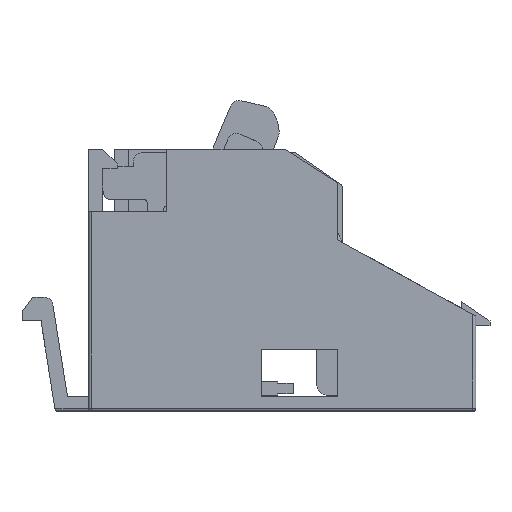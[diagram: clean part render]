
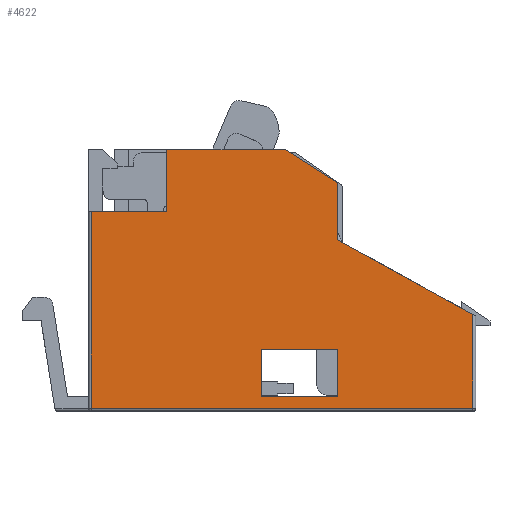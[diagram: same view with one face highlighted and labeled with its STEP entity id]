
A CAD part, top view. The second image highlights one B-rep face of the part: STEP entity #4622.
In plain terms, the highlighted planar face has unit normal (0, 0, 1).
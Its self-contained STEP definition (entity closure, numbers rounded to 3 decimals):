
#54 = CARTESIAN_POINT ( 'NONE',  ( 40.2, 10.166, 0. ) ) ;
#87 = DIRECTION ( 'NONE',  ( -1., 0., 0. ) ) ;
#165 = CARTESIAN_POINT ( 'NONE',  ( 20.5, 27.5, 0. ) ) ;
#226 = VERTEX_POINT ( 'NONE', #4753 ) ;
#325 = VERTEX_POINT ( 'NONE', #11358 ) ;
#541 = ORIENTED_EDGE ( 'NONE', *, *, #5759, .F. ) ;
#798 = VERTEX_POINT ( 'NONE', #1374 ) ;
#940 = CARTESIAN_POINT ( 'NONE',  ( 0.1, 0., 0. ) ) ;
#1082 = VERTEX_POINT ( 'NONE', #12701 ) ;
#1294 = CARTESIAN_POINT ( 'NONE',  ( 26., 0., 0. ) ) ;
#1374 = CARTESIAN_POINT ( 'NONE',  ( 26., 1.5, 0. ) ) ;
#1384 = CARTESIAN_POINT ( 'NONE',  ( 18., 1.5, 0. ) ) ;
#1458 = EDGE_CURVE ( 'NONE', #13090, #2715, #2737, .T. ) ;
#1497 = VERTEX_POINT ( 'NONE', #10554 ) ;
#1591 = LINE ( 'NONE', #12249, #6954 ) ;
#1723 = VECTOR ( 'NONE', #12868, 1000. ) ;
#1764 = VECTOR ( 'NONE', #5895, 1000. ) ;
#1819 = AXIS2_PLACEMENT_3D ( 'NONE', #3242, #6484, #87 ) ;
#1886 = CARTESIAN_POINT ( 'NONE',  ( 0., 1.5, 0. ) ) ;
#2014 = DIRECTION ( 'NONE',  ( 0., 1., 0. ) ) ;
#2024 = LINE ( 'NONE', #1886, #4557 ) ;
#2064 = DIRECTION ( 'NONE',  ( 1., 0., 0. ) ) ;
#2255 = EDGE_CURVE ( 'NONE', #226, #13090, #10112, .T. ) ;
#2348 = VECTOR ( 'NONE', #6442, 1000. ) ;
#2362 = CARTESIAN_POINT ( 'NONE',  ( 26., 18., 0. ) ) ;
#2558 = CARTESIAN_POINT ( 'NONE',  ( 8., 21., 0. ) ) ;
#2567 = EDGE_CURVE ( 'NONE', #6241, #1497, #7414, .T. ) ;
#2612 = CARTESIAN_POINT ( 'NONE',  ( 18., 6.5, 0. ) ) ;
#2715 = VERTEX_POINT ( 'NONE', #1384 ) ;
#2737 = LINE ( 'NONE', #10466, #13514 ) ;
#2950 = DIRECTION ( 'NONE',  ( 1., 0., 0. ) ) ;
#2964 = VECTOR ( 'NONE', #9867, 1000. ) ;
#3118 = EDGE_LOOP ( 'NONE', ( #12893, #8728, #3993, #7743 ) ) ;
#3198 = CARTESIAN_POINT ( 'NONE',  ( 26., 18., 0. ) ) ;
#3242 = CARTESIAN_POINT ( 'NONE',  ( 0., 0., 0. ) ) ;
#3458 = ORIENTED_EDGE ( 'NONE', *, *, #10048, .F. ) ;
#3567 = EDGE_CURVE ( 'NONE', #325, #12952, #6393, .T. ) ;
#3993 = ORIENTED_EDGE ( 'NONE', *, *, #1458, .F. ) ;
#4048 = ORIENTED_EDGE ( 'NONE', *, *, #6968, .F. ) ;
#4112 = VECTOR ( 'NONE', #2014, 1000. ) ;
#4557 = VECTOR ( 'NONE', #2950, 1000. ) ;
#4622 = ADVANCED_FACE ( 'NONE', ( #11075, #7883 ), #5411, .F. ) ;
#4631 = ORIENTED_EDGE ( 'NONE', *, *, #9653, .F. ) ;
#4713 = VERTEX_POINT ( 'NONE', #11914 ) ;
#4753 = CARTESIAN_POINT ( 'NONE',  ( 26., 6.5, 0. ) ) ;
#5208 = LINE ( 'NONE', #3198, #2348 ) ;
#5216 = CARTESIAN_POINT ( 'NONE',  ( 40.2, 0.3, 0. ) ) ;
#5296 = VERTEX_POINT ( 'NONE', #2558 ) ;
#5366 = CARTESIAN_POINT ( 'NONE',  ( 0., 0.3, 0. ) ) ;
#5411 = PLANE ( 'NONE',  #1819 ) ;
#5759 = EDGE_CURVE ( 'NONE', #1082, #13610, #6169, .T. ) ;
#5895 = DIRECTION ( 'NONE',  ( 0., -1., 0. ) ) ;
#5969 = CARTESIAN_POINT ( 'NONE',  ( 20.5, 27.5, 0. ) ) ;
#5987 = LINE ( 'NONE', #5969, #6314 ) ;
#6024 = ORIENTED_EDGE ( 'NONE', *, *, #12021, .F. ) ;
#6062 = VECTOR ( 'NONE', #7290, 1000. ) ;
#6169 = LINE ( 'NONE', #1294, #2964 ) ;
#6240 = DIRECTION ( 'NONE',  ( 0., -1., 0. ) ) ;
#6241 = VERTEX_POINT ( 'NONE', #5216 ) ;
#6314 = VECTOR ( 'NONE', #12396, 1000. ) ;
#6393 = LINE ( 'NONE', #12647, #6062 ) ;
#6442 = DIRECTION ( 'NONE',  ( 0.876, -0.483, 0. ) ) ;
#6484 = DIRECTION ( 'NONE',  ( 0., 0., -1. ) ) ;
#6818 = ORIENTED_EDGE ( 'NONE', *, *, #2567, .F. ) ;
#6954 = VECTOR ( 'NONE', #13343, 1000. ) ;
#6968 = EDGE_CURVE ( 'NONE', #9336, #6241, #7466, .T. ) ;
#7091 = ORIENTED_EDGE ( 'NONE', *, *, #3567, .F. ) ;
#7257 = VECTOR ( 'NONE', #9523, 1000. ) ;
#7290 = DIRECTION ( 'NONE',  ( 1., 0., 0. ) ) ;
#7414 = LINE ( 'NONE', #5366, #1723 ) ;
#7466 = LINE ( 'NONE', #12331, #1764 ) ;
#7743 = ORIENTED_EDGE ( 'NONE', *, *, #2255, .F. ) ;
#7883 = FACE_OUTER_BOUND ( 'NONE', #11333, .T. ) ;
#8278 = DIRECTION ( 'NONE',  ( 0., 1., 0. ) ) ;
#8728 = ORIENTED_EDGE ( 'NONE', *, *, #9534, .F. ) ;
#9244 = VECTOR ( 'NONE', #2064, 1000. ) ;
#9336 = VERTEX_POINT ( 'NONE', #54 ) ;
#9523 = DIRECTION ( 'NONE',  ( -1., 0., 0. ) ) ;
#9532 = EDGE_CURVE ( 'NONE', #798, #226, #13130, .T. ) ;
#9534 = EDGE_CURVE ( 'NONE', #2715, #798, #2024, .T. ) ;
#9574 = CARTESIAN_POINT ( 'NONE',  ( 0., 21., 0. ) ) ;
#9653 = EDGE_CURVE ( 'NONE', #4713, #5296, #12457, .T. ) ;
#9867 = DIRECTION ( 'NONE',  ( 0., -1., 0. ) ) ;
#10048 = EDGE_CURVE ( 'NONE', #13610, #9336, #5208, .T. ) ;
#10112 = LINE ( 'NONE', #13809, #7257 ) ;
#10466 = CARTESIAN_POINT ( 'NONE',  ( 18., 0., 0. ) ) ;
#10554 = CARTESIAN_POINT ( 'NONE',  ( 0.1, 0.3, 0. ) ) ;
#11075 = FACE_BOUND ( 'NONE', #3118, .T. ) ;
#11333 = EDGE_LOOP ( 'NONE', ( #4048, #3458, #541, #12807, #7091, #13180, #4631, #6024, #6818 ) ) ;
#11358 = CARTESIAN_POINT ( 'NONE',  ( 8., 27.5, 0. ) ) ;
#11656 = EDGE_CURVE ( 'NONE', #12952, #1082, #5987, .T. ) ;
#11914 = CARTESIAN_POINT ( 'NONE',  ( 0.1, 21., 0. ) ) ;
#12021 = EDGE_CURVE ( 'NONE', #1497, #4713, #12691, .T. ) ;
#12249 = CARTESIAN_POINT ( 'NONE',  ( 8., 0., 0. ) ) ;
#12331 = CARTESIAN_POINT ( 'NONE',  ( 40.2, 0., 0. ) ) ;
#12396 = DIRECTION ( 'NONE',  ( 0.844, -0.537, 0. ) ) ;
#12457 = LINE ( 'NONE', #9574, #9244 ) ;
#12591 = CARTESIAN_POINT ( 'NONE',  ( 26., 0., 0. ) ) ;
#12647 = CARTESIAN_POINT ( 'NONE',  ( 0., 27.5, 0. ) ) ;
#12691 = LINE ( 'NONE', #940, #4112 ) ;
#12701 = CARTESIAN_POINT ( 'NONE',  ( 26., 24., 0. ) ) ;
#12807 = ORIENTED_EDGE ( 'NONE', *, *, #11656, .F. ) ;
#12868 = DIRECTION ( 'NONE',  ( -1., 0., 0. ) ) ;
#12893 = ORIENTED_EDGE ( 'NONE', *, *, #9532, .F. ) ;
#12952 = VERTEX_POINT ( 'NONE', #165 ) ;
#13068 = EDGE_CURVE ( 'NONE', #5296, #325, #1591, .T. ) ;
#13090 = VERTEX_POINT ( 'NONE', #2612 ) ;
#13130 = LINE ( 'NONE', #12591, #13467 ) ;
#13180 = ORIENTED_EDGE ( 'NONE', *, *, #13068, .F. ) ;
#13343 = DIRECTION ( 'NONE',  ( 0., 1., 0. ) ) ;
#13467 = VECTOR ( 'NONE', #8278, 1000. ) ;
#13514 = VECTOR ( 'NONE', #6240, 1000. ) ;
#13610 = VERTEX_POINT ( 'NONE', #2362 ) ;
#13809 = CARTESIAN_POINT ( 'NONE',  ( 0., 6.5, 0. ) ) ;
